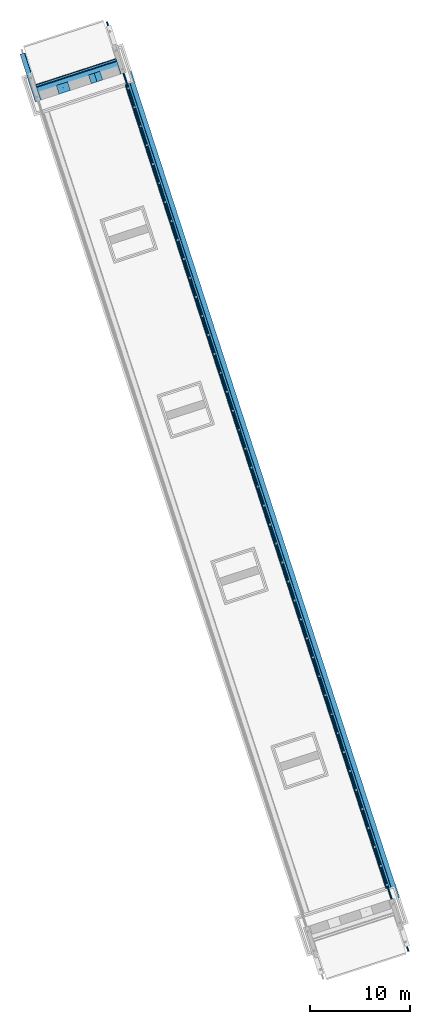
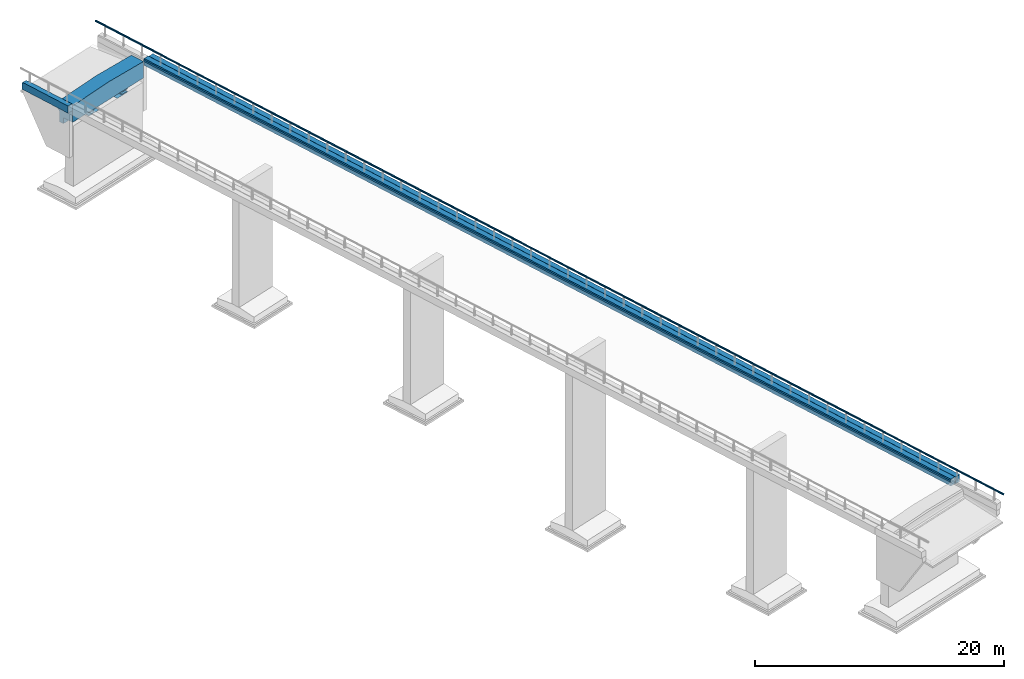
# Not in any storey, part 7 of 10: 4 beams, 2 bearings, 1 member, 1 element without a shape of its own.
"""IFC4X3_ADD2 model written with IfcOpenShell, lengths in metres."""

from ifc_helpers import new_model, entity, si_unit, converted_unit, derived_unit, direction, frame, origin, origin_2d, place, context, subcontext, project, library, spatial, polygons, element, aggregate, save


model = new_model("IFC4X3_ADD2")

# Units and contexts
model_context = context("Model", 3, precision=1e-05, world=origin(), true_north=direction((-0.011993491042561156, 0.9999280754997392)))
plan_context = context("Plan", 2, precision=1e-05, world=origin_2d())
body_context = subcontext(model_context, "Body", "Model", "MODEL_VIEW")
ifc_project = project(units=[si_unit("LENGTHUNIT", "METRE"), si_unit("AREAUNIT", "SQUARE_METRE"), si_unit("VOLUMEUNIT", "CUBIC_METRE"), si_unit("MASSUNIT", "GRAM", prefix="KILO"), converted_unit("TIMEUNIT", "year", entity("IfcTimeMeasure", 31557600.0), si_unit("TIMEUNIT", "SECOND"), dimensions=[0, 0, 1, 0, 0, 0, 0]), si_unit("PLANEANGLEUNIT", "RADIAN"), si_unit("THERMODYNAMICTEMPERATUREUNIT", "DEGREE_CELSIUS"), si_unit("FORCEUNIT", "NEWTON", prefix="KILO"), si_unit("PRESSUREUNIT", "PASCAL", prefix="MEGA"), si_unit("SOLIDANGLEUNIT", "STERADIAN"), derived_unit("MASSDENSITYUNIT", [(si_unit("MASSUNIT", "GRAM", prefix="KILO"), 1), (si_unit("VOLUMEUNIT", "CUBIC_METRE"), -1)]), derived_unit("MODULUSOFELASTICITYUNIT", [(si_unit("PRESSUREUNIT", "PASCAL", prefix="MEGA"), 1)]), derived_unit("THERMALEXPANSIONCOEFFICIENTUNIT", [(si_unit("THERMODYNAMICTEMPERATUREUNIT", "DEGREE_CELSIUS"), -1)])], contexts=[model_context, plan_context])
project_library = library(declared=ifc_project)

# Site, bridge, bridge parts
site_placement = place(None, origin())
site = spatial("IfcSite", under=ifc_project, at=site_placement, Name="Site BR-01", CompositionType="ELEMENT")
bridge_placement = place(site_placement, origin())
bridge = spatial("IfcBridge", under=site, at=bridge_placement, Name="BR-01", CompositionType="ELEMENT", PredefinedType="USERDEFINED")
bridge_part_1_placement = place(bridge_placement, origin())
bridge_part_1 = spatial("IfcBridgePart", under=bridge, at=bridge_part_1_placement, Name="Superstructure", CompositionType="ELEMENT", PredefinedType="SUPERSTRUCTURE", UsageType="LONGITUDINAL")
bridge_part_2_placement = place(bridge_part_1_placement, frame((0.0, 0.0, 62.729)))
bridge_part_2 = spatial("IfcBridgePart", under=bridge_part_1, at=bridge_part_2_placement, Name="Deck", CompositionType="ELEMENT", PredefinedType="DECK", UsageType="LONGITUDINAL")

# Railing, member
railing_placement = place(bridge_part_2_placement, frame((17.7389524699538, 118.69444238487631, 3.2577553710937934), z_axis=(0.0, 0.0, 1.0), x_axis=(0.3088039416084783, -0.951125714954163, 0.0)))
railing = element("IfcRailing", 1, at=railing_placement, inside=bridge_part_2, Name="Bridge railing left", PredefinedType="GUARDRAIL")
member_placement = place(bridge_part_2_placement, frame((32.56127931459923, 73.04081610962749, 2.7574807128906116), z_axis=(0.0, 0.0, 1.0), x_axis=(0.3088039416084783, -0.951125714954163, 0.0)))
member = element("IfcMember", 2, at=member_placement, Name="Railing top rail left", ObjectType="TOPRAIL", PredefinedType="USERDEFINED", context=body_context, shape_type="Tessellation", body=[
    polygons([(-48.9998, 0.02589, 0.43962), (-48.99981, -0.02564, 0.43962), (-48.99923, 0.02589, 0.56979), (-48.99963, 0.06521, 0.47894), (-48.99974, 0.04962, 0.45521), (-48.99983, 0.00013, 0.43471), (-48.99941, 0.06521, 0.53047), (-48.99952, 0.07013, 0.50471), (-48.9993, 0.04962, 0.55421), (-48.99923, -0.02564, 0.56979), (-48.99921, 0.00013, 0.57471), (-48.99963, -0.06496, 0.47894), (-48.99974, -0.04937, 0.45521), (-48.99952, -0.06987, 0.50471), (-48.99941, -0.06496, 0.53047), (-48.9993, -0.04937, 0.55421), (48.99921, -0.00013, 0.0), (48.99981, 0.02564, 0.13509), (48.99983, -0.00013, 0.14), (48.9993, 0.04937, 0.02051), (48.9994, 0.06496, 0.04424), (48.99963, 0.06496, 0.09577), (48.99923, 0.02564, 0.00492), (48.99952, 0.06987, 0.07), (48.99974, 0.04937, 0.1195), (48.99981, -0.02589, 0.13509), (48.99923, -0.02589, 0.00492), (48.99974, -0.04962, 0.1195), (48.9993, -0.04962, 0.02051), (48.9994, -0.06521, 0.04424), (48.99963, -0.06521, 0.09577), (48.99952, -0.07013, 0.07)], [[[1, 2, 3]], [[3, 4, 1]], [[4, 5, 1]], [[2, 1, 6]], [[4, 7, 8]], [[3, 7, 4]], [[3, 9, 7]], [[10, 11, 3]], [[10, 2, 12]], [[2, 13, 12]], [[14, 15, 12]], [[3, 2, 10]], [[15, 10, 12]], [[15, 16, 10]], [[17, 18, 19]], [[20, 21, 22]], [[23, 20, 18]], [[18, 17, 23]], [[21, 24, 22]], [[22, 25, 20]], [[18, 20, 25]], [[19, 26, 17]], [[27, 28, 29]], [[28, 30, 29]], [[31, 32, 30]], [[27, 17, 26]], [[28, 27, 26]], [[31, 30, 28]], [[31, 15, 14, 32]], [[27, 2, 6, 17]], [[23, 1, 5, 20]], [[21, 4, 8, 24]], [[20, 5, 4, 21]], [[17, 6, 1, 23]], [[30, 12, 13, 29]], [[29, 13, 2, 27]], [[32, 14, 12, 30]], [[18, 3, 11, 19]], [[26, 10, 16, 28]], [[28, 16, 15, 31]], [[19, 11, 10, 26]], [[22, 7, 9, 25]], [[25, 9, 3, 18]], [[24, 8, 7, 22]]], closed=True),
])
aggregate(railing, [member])

# Beams
beam_1_placement = place(bridge_part_2_placement, frame((14.562578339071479, 113.9054149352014, -0.2617606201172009), z_axis=(0.0, 0.0, 1.0), x_axis=(0.3088039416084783, -0.951125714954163, 0.0)))
element("IfcBeam", 3, at=beam_1_placement, inside=bridge_part_2, Name="End diaphragm A1", PredefinedType="DIAPHRAGM", context=body_context, shape_type="Tessellation", body=[
    polygons([(0.16499, -1.06251, 2.35802), (0.825, -1e-05, 2.38654), (-0.495, -1e-05, 2.39326), (0.495, -1.06251, 2.35634), (0.49499, -2.125, 2.32447), (0.82499, -4.25, 2.25903), (0.49499, -3.1875, 2.29259), (0.16499, -3.1875, 2.29427), (-0.165, -1.06251, 2.35971), (-0.16501, -2.125, 2.32784), (-0.49501, -4.24999, 2.26577), (-0.16501, -3.1875, 2.29596), (0.16499, -2.125, 2.32615), (-0.57501, -4.24999, 2.11618), (-0.575, -1e-05, 2.24368), (-0.57501, -4.24999, 1.56618), (-0.575, -0.00112, 1.5362), (0.82499, -4.25, 0.65903), (0.825, -0.00112, 0.62952), (0.16501, 3.18749, 2.24967), (0.82501, 4.24999, 2.2), (-0.49499, 4.25, 2.20586), (0.49501, 3.18749, 2.24815), (0.49501, 2.12499, 2.29484), (0.49501, 1.06249, 2.34153), (0.165, 1.06249, 2.34315), (-0.16499, 3.18749, 2.25119), (-0.16499, 2.12499, 2.29799), (-0.165, 1.06249, 2.34479), (0.16501, 2.12499, 2.29642), (-0.53499, 3.18749, 2.17789), (-0.57499, 4.24999, 2.05621), (-0.51499, 3.18749, 2.2153), (-0.51499, 2.12499, 2.26215), (-0.515, 1.06249, 2.30901), (-0.53499, 1.06249, 2.27161), (-0.55499, 3.1875, 2.14049), (-0.555, 2.12499, 2.18735), (-0.555, 1.06249, 2.23421), (-0.53499, 2.12499, 2.22475), (-0.57499, 4.24999, 1.50621), (-0.66499, 2.125, 1.5122), (-0.75499, 4.24999, 1.48821), (-0.61999, 2.125, 1.5167), (-0.62, -0.00112, 1.5317), (-0.62001, -2.125, 1.54668), (-0.66501, -2.12499, 1.54218), (-0.70999, 2.125, 1.5077), (-0.71, -0.00112, 1.5227), (-0.75501, -4.24999, 1.54818), (-0.71001, -2.125, 1.53769), (-0.665, -0.00112, 1.5272), (-0.78999, 2.125, 1.4782), (-0.82499, 4.24999, 1.43821), (-0.7725, 2.125, 1.4907), (-0.7725, -0.00112, 1.5057), (-0.7725, -2.125, 1.52069), (-0.79001, -2.125, 1.50819), (-0.80749, 2.125, 1.4657), (-0.8075, -0.00112, 1.4807), (-0.82501, -4.24999, 1.49818), (-0.80751, -2.12499, 1.49569), (-0.79, -0.00112, 1.4932), (-0.825, 2.125, 1.3622), (-0.82499, 4.24999, 1.25621), (-0.825, 2.125, 1.4077), (-0.825, -0.00112, 1.4227), (-0.825, -2.125, 1.43769), (-0.825, -2.125, 1.39219), (-0.825, 2.125, 1.3167), (-0.825, -0.00112, 1.3317), (-0.82501, -4.24999, 1.31618), (-0.825, -2.125, 1.34669), (-0.825, -0.00112, 1.3772), (-0.69999, 2.125, 1.1462), (-0.57499, 4.24999, 1.00621), (-0.76249, 2.125, 1.2087), (-0.7625, -0.00112, 1.2237), (-0.76251, -2.125, 1.23869), (-0.70001, -2.125, 1.17619), (-0.6375, 2.125, 1.0837), (-0.6375, -0.00112, 1.0987), (-0.57501, -4.24999, 1.06618), (-0.6375, -2.125, 1.11369), (-0.7, -0.00111, 1.1612), (-0.57499, 2.125, 0.51798), (-0.57499, 4.24999, 0.0), (-0.57499, 2.125, 0.76959), (-0.575, -0.00112, 0.78453), (-0.57501, -2.125, 0.79946), (-0.57501, -2.125, 0.54773), (-0.57499, 2.125, 0.26637), (-0.575, -0.00112, 0.28119), (-0.57501, -4.24999, 0.05903), (-0.57501, -2.125, 0.296), (-0.575, -0.00112, 0.53286), (-0.37499, 2.125, 0.01476), (-0.17499, 4.24999, 0.0), (-0.475, 2.125, 0.01476), (-0.475, -0.00112, 0.02953), (-0.475, -2.125, 0.04428), (-0.37501, -2.125, 0.04428), (-0.27499, 2.125, 0.01476), (-0.275, -0.00112, 0.02953), (-0.17501, -4.24999, 0.05903), (-0.27501, -2.125, 0.04428), (-0.375, -0.00112, 0.02953), (-0.175, 2.125, 0.31476), (-0.17499, 4.24999, 0.6), (-0.175, 2.125, 0.16476), (-0.175, -0.00112, 0.17952), (-0.175, -2.125, 0.19427), (-0.175, 2.125, 0.46476), (-0.175, -0.00112, 0.47953), (-0.17501, -4.24999, 0.65903), (-0.175, -2.125, 0.49427), (-0.175, -2.125, 0.34428), (-0.175, -0.00112, 0.32952), (0.325, 2.125, 0.61476), (0.82501, 4.24999, 0.6), (0.075, -0.00112, 0.62952), (0.07501, 2.12499, 0.61476), (0.07499, -2.125, 0.64428), (0.325, -2.125, 0.64428), (0.57501, 2.12499, 0.61476), (0.575, -0.00112, 0.62952), (0.57499, -2.125, 0.64428), (0.325, -0.00112, 0.62952)], [[[1, 2, 3]], [[2, 4, 5]], [[1, 4, 2]], [[5, 6, 2]], [[6, 7, 8]], [[7, 6, 5]], [[3, 9, 1]], [[10, 3, 11]], [[3, 10, 9]], [[11, 12, 10]], [[8, 11, 6]], [[11, 8, 12]], [[1, 13, 5, 4]], [[13, 8, 7, 5]], [[9, 10, 13, 1]], [[10, 12, 8, 13]], [[14, 11, 3, 15]], [[16, 14, 15, 17]], [[6, 18, 19, 2]], [[20, 21, 22]], [[21, 23, 24]], [[20, 23, 21]], [[24, 2, 21]], [[2, 25, 26]], [[25, 2, 24]], [[22, 27, 20]], [[28, 22, 3]], [[22, 28, 27]], [[3, 29, 28]], [[26, 3, 2]], [[3, 26, 29]], [[20, 30, 24, 23]], [[30, 26, 25, 24]], [[27, 28, 30, 20]], [[28, 29, 26, 30]], [[31, 22, 32]], [[22, 33, 34]], [[31, 33, 22]], [[34, 3, 22]], [[3, 35, 36]], [[35, 3, 34]], [[32, 37, 31]], [[38, 32, 15]], [[32, 38, 37]], [[15, 39, 38]], [[36, 15, 3]], [[15, 36, 39]], [[31, 40, 34, 33]], [[40, 36, 35, 34]], [[37, 38, 40, 31]], [[38, 39, 36, 40]], [[17, 15, 32, 41]], [[42, 41, 43]], [[41, 44, 45, 17]], [[42, 44, 41]], [[17, 46, 16]], [[16, 46, 47]], [[45, 46, 17]], [[43, 48, 42]], [[49, 43, 50]], [[43, 49, 48]], [[50, 51, 49]], [[47, 50, 16]], [[50, 47, 51]], [[42, 52, 45, 44]], [[52, 47, 46, 45]], [[48, 49, 52, 42]], [[49, 51, 47, 52]], [[53, 43, 54]], [[53, 55, 43]], [[43, 55, 56, 50]], [[50, 57, 58]], [[57, 50, 56]], [[54, 59, 53]], [[60, 54, 61]], [[54, 60, 59]], [[61, 62, 60]], [[58, 61, 50]], [[61, 58, 62]], [[53, 63, 56, 55]], [[63, 58, 57, 56]], [[59, 60, 63, 53]], [[60, 62, 58, 63]], [[64, 54, 65]], [[64, 66, 54]], [[54, 66, 67, 61]], [[61, 68, 69]], [[68, 61, 67]], [[65, 70, 64]], [[71, 65, 72]], [[65, 71, 70]], [[72, 73, 71]], [[69, 72, 61]], [[72, 69, 73]], [[64, 74, 67, 66]], [[74, 69, 68, 67]], [[70, 71, 74, 64]], [[71, 73, 69, 74]], [[75, 65, 76]], [[75, 77, 65]], [[65, 77, 78, 72]], [[72, 79, 80]], [[79, 72, 78]], [[76, 81, 75]], [[82, 76, 83]], [[76, 82, 81]], [[83, 84, 82]], [[80, 83, 72]], [[83, 80, 84]], [[75, 85, 78, 77]], [[85, 80, 79, 78]], [[81, 82, 85, 75]], [[82, 84, 80, 85]], [[86, 76, 87]], [[86, 88, 76]], [[76, 88, 89, 83]], [[83, 90, 91]], [[90, 83, 89]], [[87, 92, 86]], [[93, 87, 94]], [[87, 93, 92]], [[94, 95, 93]], [[91, 94, 83]], [[94, 91, 95]], [[86, 96, 89, 88]], [[96, 91, 90, 89]], [[92, 93, 96, 86]], [[93, 95, 91, 96]], [[97, 87, 98]], [[97, 99, 87]], [[87, 99, 100, 94]], [[94, 101, 102]], [[101, 94, 100]], [[98, 103, 97]], [[104, 98, 105]], [[98, 104, 103]], [[105, 106, 104]], [[102, 105, 94]], [[105, 102, 106]], [[97, 107, 100, 99]], [[107, 102, 101, 100]], [[103, 104, 107, 97]], [[104, 106, 102, 107]], [[108, 98, 109]], [[108, 110, 98]], [[98, 110, 111, 105]], [[112, 105, 111]], [[109, 113, 108]], [[114, 109, 115]], [[109, 114, 113]], [[115, 116, 114]], [[105, 112, 117, 115]], [[115, 117, 116]], [[108, 118, 111, 110]], [[118, 117, 112, 111]], [[113, 114, 118, 108]], [[114, 116, 117, 118]], [[119, 109, 120]], [[121, 115, 109]], [[109, 122, 121]], [[122, 109, 119]], [[123, 115, 121]], [[115, 124, 18]], [[124, 115, 123]], [[120, 125, 119]], [[19, 126, 125, 120]], [[19, 127, 126]], [[127, 18, 124]], [[18, 127, 19]], [[119, 128, 121, 122]], [[128, 124, 123, 121]], [[125, 126, 128, 119]], [[126, 127, 124, 128]], [[76, 41, 109]], [[87, 76, 109]], [[76, 65, 43]], [[43, 65, 54]], [[41, 76, 43]], [[22, 41, 32]], [[98, 87, 109]], [[120, 109, 21]], [[109, 41, 22]], [[21, 109, 22]], [[16, 83, 115]], [[14, 16, 11]], [[16, 50, 72]], [[72, 50, 61]], [[83, 16, 72]], [[94, 115, 83]], [[16, 115, 6]], [[6, 115, 18]], [[6, 11, 16]], [[105, 115, 94]], [[2, 19, 120, 21]]], closed=True),
])
beam_2_placement = place(bridge_part_2_placement, frame((33.05923286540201, 73.18014288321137, 1.1218796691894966), z_axis=(0.0, 0.0, 1.0), x_axis=(0.3088039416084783, -0.951125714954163, 0.0)))
element("IfcBeam", 4, at=beam_2_placement, inside=bridge_part_2, Name="Edge beam left outer", PredefinedType="EDGEBEAM", context=body_context, shape_type="Tessellation", body=[
    polygons([(-43.55, -0.21989, 0.81451), (0.0, -0.22, 0.52133), (43.55, -0.22011, 0.42815), (-21.44402, -0.21995, 0.61645), (-21.44402, -0.21995, 0.51645), (-43.55, -0.21989, 0.41451), (-21.44402, -0.21995, 0.41645), (0.0, -0.22, 0.32132), (22.10598, -0.22006, 0.42327), (22.10598, -0.22006, 0.32327), (43.55, -0.22011, 0.02814), (22.10598, -0.22006, 0.22327), (0.0, -0.22, 0.42133), (0.0, -0.0975, 0.21429), (-21.44402, -0.09744, 0.30941), (-21.44402, 0.02506, 0.30237), (-43.55, 0.27011, 0.38636), (-21.44402, 0.14755, 0.29534), (0.0, 0.1475, 0.20021), (22.10598, -0.09756, 0.11623), (22.10598, 0.02494, 0.1092), (43.55, 0.26989, 0.0), (22.10598, 0.14744, 0.10216), (0.0, 0.025, 0.20726), (0.0, 0.27, 0.36818), (-21.44402, 0.27005, 0.4633), (-21.44402, 0.27005, 0.6383), (-43.55, 0.27011, 1.08636), (-21.44402, 0.27005, 0.8133), (0.0, 0.27, 0.71818), (22.10598, 0.26994, 0.27012), (22.10598, 0.26994, 0.44512), (43.55, 0.26989, 0.7), (22.10598, 0.26994, 0.62012), (0.0, 0.27, 0.54318), (0.0, 0.1525, 0.88818), (-21.44402, 0.15255, 0.9833), (-21.44402, 0.03506, 0.9783), (-43.55, -0.19989, 1.06636), (-21.44402, -0.08244, 0.9733), (0.0, -0.0825, 0.87818), (22.10598, 0.15244, 0.79012), (22.10598, 0.03494, 0.78512), (43.55, -0.20011, 0.68), (22.10598, -0.08256, 0.78012), (0.0, 0.035, 0.88318), (0.0, -0.2175, 0.85568), (-21.44402, -0.21744, 0.9508), (-21.44402, -0.23495, 0.9333), (-43.55, -0.26989, 0.99636), (-21.44402, -0.25244, 0.9158), (0.0, -0.2525, 0.82068), (22.10598, -0.21756, 0.75762), (22.10598, -0.23506, 0.74012), (43.55, -0.27011, 0.61), (22.10598, -0.25256, 0.72262), (0.0, -0.235, 0.83818), (0.0, -0.27, 0.75818), (-21.44402, -0.26994, 0.8533), (-21.44402, -0.26994, 0.8083), (-43.55, -0.26989, 0.81636), (-21.44402, -0.26994, 0.7633), (0.0, -0.27, 0.66818), (22.10598, -0.27006, 0.66012), (22.10598, -0.27006, 0.61512), (43.55, -0.27011, 0.43), (22.10598, -0.27006, 0.57012), (0.0, -0.27, 0.71318), (0.0, -0.2575, 0.62271), (-21.44402, -0.25744, 0.71784), (-21.44402, -0.24495, 0.71737), (-21.44402, -0.23245, 0.71692), (0.0, -0.2325, 0.62179), (22.10598, -0.25756, 0.52465), (22.10598, -0.24506, 0.5242), (22.10598, -0.23256, 0.52373), (0.0, -0.245, 0.62225)], [[[1, 2, 3]], [[4, 2, 1]], [[5, 4, 1, 6]], [[7, 6, 8]], [[6, 7, 5]], [[9, 3, 2]], [[3, 10, 11]], [[10, 3, 9]], [[12, 11, 10]], [[11, 8, 6]], [[8, 11, 12]], [[5, 13, 2, 4]], [[7, 8, 13, 5]], [[13, 10, 9, 2]], [[8, 12, 10, 13]], [[6, 14, 11]], [[15, 6, 16]], [[15, 14, 6]], [[17, 16, 6]], [[18, 17, 19]], [[17, 18, 16]], [[20, 11, 14]], [[11, 21, 22]], [[21, 11, 20]], [[23, 22, 21]], [[22, 19, 17]], [[19, 22, 23]], [[16, 24, 14, 15]], [[18, 19, 24, 16]], [[24, 21, 20, 14]], [[19, 23, 21, 24]], [[17, 25, 22]], [[26, 25, 17]], [[27, 26, 17, 28]], [[29, 28, 30]], [[28, 29, 27]], [[31, 22, 25]], [[22, 32, 33]], [[32, 22, 31]], [[34, 33, 32]], [[33, 30, 28]], [[30, 33, 34]], [[27, 35, 25, 26]], [[29, 30, 35, 27]], [[35, 32, 31, 25]], [[30, 34, 32, 35]], [[28, 36, 33]], [[37, 28, 38]], [[37, 36, 28]], [[39, 38, 28]], [[40, 39, 41]], [[39, 40, 38]], [[42, 33, 36]], [[33, 43, 44]], [[43, 33, 42]], [[45, 44, 43]], [[44, 41, 39]], [[41, 44, 45]], [[38, 46, 36, 37]], [[40, 41, 46, 38]], [[46, 43, 42, 36]], [[41, 45, 43, 46]], [[39, 47, 44]], [[48, 39, 49]], [[48, 47, 39]], [[50, 49, 39]], [[51, 50, 52]], [[50, 51, 49]], [[53, 44, 47]], [[44, 54, 55]], [[54, 44, 53]], [[56, 55, 54]], [[55, 52, 50]], [[52, 55, 56]], [[49, 57, 47, 48]], [[51, 52, 57, 49]], [[57, 54, 53, 47]], [[52, 56, 54, 57]], [[50, 58, 55]], [[59, 50, 60]], [[59, 58, 50]], [[61, 60, 50]], [[62, 61, 63]], [[61, 62, 60]], [[64, 55, 58]], [[55, 65, 66]], [[65, 55, 64]], [[67, 66, 65]], [[66, 63, 61]], [[63, 66, 67]], [[60, 68, 58, 59]], [[62, 63, 68, 60]], [[68, 65, 64, 58]], [[63, 67, 65, 68]], [[3, 44, 55]], [[33, 44, 3]], [[22, 3, 11]], [[3, 22, 33]], [[55, 66, 3]], [[39, 1, 50]], [[17, 1, 28]], [[1, 17, 6]], [[39, 28, 1]], [[1, 61, 50]], [[61, 69, 66]], [[70, 61, 71]], [[70, 69, 61]], [[1, 71, 61]], [[72, 1, 73]], [[1, 72, 71]], [[74, 66, 69]], [[66, 75, 3]], [[75, 66, 74]], [[76, 3, 75]], [[3, 73, 1]], [[73, 3, 76]], [[71, 77, 69, 70]], [[72, 73, 77, 71]], [[77, 75, 74, 69]], [[73, 76, 75, 77]]], closed=True),
])

# Bridge parts
bridge_part_3_placement = place(bridge_placement, origin())
bridge_part_3 = spatial("IfcBridgePart", under=bridge, at=bridge_part_3_placement, Name="Substructure", CompositionType="ELEMENT", PredefinedType="SUBSTRUCTURE", UsageType="VERTICAL")
bridge_part_4_placement = place(bridge_part_3_placement, frame((0.0, 0.0, 55.75)))
bridge_part_4 = spatial("IfcBridgePart", under=bridge_part_3, at=bridge_part_4_placement, Name="A1", CompositionType="ELEMENT", PredefinedType="ABUTMENT", UsageType="VERTICAL")

# Beams
beam_3_placement = place(bridge_part_4_placement, frame((9.746259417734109, 114.10273991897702, 8.546272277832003), z_axis=(0.0, 0.0, 1.0), x_axis=(0.3088039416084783, -0.951125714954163, 0.0)))
element("IfcBeam", 5, at=beam_3_placement, inside=bridge_part_4, Name="Wing wall edge beam A1 right", PredefinedType="EDGEBEAM", context=body_context, shape_type="Tessellation", body=[
    polygons([(-2.19997, -0.26999, 0.02398), (-2.49997, -0.26999, 0.02551), (-2.49997, -0.12999, 0.03409), (-2.19997, -0.13, 0.03255), (-2.19997, -0.26999, 0.72398), (-2.49997, -0.26999, 0.64552), (-2.19997, 0.2, 0.70398), (-2.49996, 0.20001, 0.62551), (-2.19997, 0.27001, 0.63398), (-2.49997, 0.27001, 0.55551), (-2.34997, 0.27001, 0.47781), (-2.42497, 0.27001, 0.33442), (-2.49997, 0.27001, 0.45551), (-2.42497, 0.27001, 0.47489), (-2.42497, 0.27001, 0.18406), (-2.49997, 0.27001, 0.03409), (-2.34997, 0.27001, 0.18368), (-2.27497, 0.27001, 0.48071), (-2.27497, 0.27001, 0.33365), (-2.19997, 0.27001, 0.45398), (-2.19997, 0.27001, 0.03255), (-2.27497, 0.27001, 0.1833), (-2.34997, 0.27001, 0.33403), (0.1725, -0.165, 0.0183), (2.49997, -0.13001, 0.00858), (-1.01498, -0.165, 0.02437), (-1.01499, -0.2, 0.02222), (-1.01499, -0.235, 0.02008), (1.32498, -0.165, 0.01243), (1.32498, -0.2, 0.01028), (2.49997, -0.27001, 0.0), (1.32498, -0.23501, 0.00814), (0.1725, -0.235, 0.01402), (0.17249, -0.2, 0.01616), (0.1725, -0.27, 0.18687), (-1.01498, -0.27, 0.19294), (-1.01498, -0.27, 0.36794), (-1.01498, -0.27, 0.54294), (1.32498, -0.27, 0.181), (1.32498, -0.27, 0.356), (2.49997, -0.27001, 0.7), (1.32498, -0.27, 0.531), (0.1725, -0.27, 0.53688), (0.1725, -0.27, 0.36188), (0.1725, -0.1525, 0.70688), (-1.01499, -0.1525, 0.71294), (-1.01499, -0.035, 0.70794), (-1.01499, 0.0825, 0.70293), (1.32499, -0.15251, 0.701), (1.32498, -0.03501, 0.696), (2.49997, 0.19999, 0.68), (1.32498, 0.0825, 0.69099), (0.1725, 0.0825, 0.69688), (0.1725, -0.035, 0.70187), (0.1725, 0.2175, 0.67438), (-1.01499, 0.2175, 0.68044), (-1.01498, 0.235, 0.66293), (-1.01499, 0.2525, 0.64544), (1.32499, 0.2175, 0.6685), (1.32498, 0.235, 0.65099), (2.49996, 0.26999, 0.61), (1.32498, 0.2525, 0.6335), (0.1725, 0.2525, 0.63937), (0.1725, 0.235, 0.65688), (0.1725, 0.27, 0.47152), (-1.01499, 0.27, 0.32722), (-1.01499, 0.27, 0.47758), (-1.01499, 0.27, 0.17686), (1.32499, 0.27, 0.46564), (1.32499, 0.27, 0.31528), (2.49996, 0.26999, 0.43), (2.49996, 0.26999, 0.00858), (1.32499, 0.27, 0.16492), (0.1725, 0.27, 0.17081), (0.1725, 0.27, 0.32116), (0.17249, 0.17, 0.02045), (-1.01499, 0.17, 0.0265), (-1.01499, 0.07, 0.0265), (-1.01498, -0.03, 0.0265), (1.32498, 0.17, 0.01456), (1.32498, 0.07, 0.01456), (1.32498, -0.03, 0.01456), (0.1725, -0.03, 0.02045), (0.1725, 0.07, 0.02045)], [[[1, 2, 3, 4]], [[5, 6, 2, 1]], [[7, 8, 6, 5]], [[9, 10, 8, 7]], [[11, 10, 9]], [[12, 13, 14]], [[13, 10, 14]], [[11, 14, 10]], [[13, 15, 16]], [[16, 15, 17]], [[12, 15, 13]], [[11, 9, 18]], [[19, 18, 20]], [[9, 20, 18]], [[21, 22, 19, 20]], [[17, 21, 16]], [[21, 17, 22]], [[11, 23, 12, 14]], [[23, 17, 15, 12]], [[18, 19, 23, 11]], [[19, 22, 17, 23]], [[24, 4, 25]], [[4, 26, 27]], [[24, 26, 4]], [[27, 1, 4]], [[28, 1, 27]], [[25, 29, 24]], [[30, 25, 31]], [[25, 30, 29]], [[31, 32, 30]], [[1, 28, 33, 31]], [[31, 33, 32]], [[24, 34, 27, 26]], [[34, 33, 28, 27]], [[29, 30, 34, 24]], [[30, 32, 33, 34]], [[35, 1, 31]], [[35, 36, 1]], [[1, 36, 37, 5]], [[38, 5, 37]], [[31, 39, 35]], [[40, 31, 41]], [[31, 40, 39]], [[41, 42, 40]], [[5, 38, 43, 41]], [[41, 43, 42]], [[35, 44, 37, 36]], [[44, 43, 38, 37]], [[39, 40, 44, 35]], [[40, 42, 43, 44]], [[45, 5, 41]], [[5, 46, 47]], [[45, 46, 5]], [[47, 7, 5]], [[48, 7, 47]], [[41, 49, 45]], [[50, 41, 51]], [[41, 50, 49]], [[51, 52, 50]], [[7, 48, 53, 51]], [[51, 53, 52]], [[45, 54, 47, 46]], [[54, 53, 48, 47]], [[49, 50, 54, 45]], [[50, 52, 53, 54]], [[55, 7, 51]], [[7, 56, 57]], [[55, 56, 7]], [[57, 9, 7]], [[58, 9, 57]], [[51, 59, 55]], [[60, 51, 61]], [[51, 60, 59]], [[61, 62, 60]], [[9, 58, 63, 61]], [[61, 63, 62]], [[55, 64, 57, 56]], [[64, 63, 58, 57]], [[59, 60, 64, 55]], [[60, 62, 63, 64]], [[65, 9, 61]], [[66, 20, 67]], [[20, 9, 67]], [[65, 67, 9]], [[20, 68, 21]], [[66, 68, 20]], [[65, 61, 69]], [[70, 69, 71]], [[61, 71, 69]], [[72, 73, 70, 71]], [[21, 68, 74, 72]], [[72, 74, 73]], [[65, 75, 66, 67]], [[75, 74, 68, 66]], [[69, 70, 75, 65]], [[70, 73, 74, 75]], [[4, 3, 16, 21]], [[41, 71, 51]], [[25, 72, 71]], [[61, 51, 71]], [[41, 25, 71]], [[25, 41, 31]], [[3, 13, 16]], [[8, 10, 13]], [[8, 13, 3]], [[3, 6, 8]], [[3, 2, 6]], [[76, 21, 72]], [[21, 77, 78]], [[76, 77, 21]], [[78, 4, 21]], [[79, 4, 78]], [[72, 80, 76]], [[81, 72, 25]], [[72, 81, 80]], [[25, 82, 81]], [[4, 79, 83, 25]], [[25, 83, 82]], [[76, 84, 78, 77]], [[84, 83, 79, 78]], [[80, 81, 84, 76]], [[81, 82, 83, 84]]], closed=True),
])
beam_4_placement = place(bridge_part_2_placement, frame((32.56472814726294, 73.0949570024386, 1.1218796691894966), z_axis=(0.0, 0.0, 1.0), x_axis=(0.3088039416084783, -0.951125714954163, 0.0)))
element("IfcBeam", 6, at=beam_4_placement, inside=bridge_part_2, Name="Edge beam left inner", PredefinedType="EDGEBEAM", context=body_context, shape_type="Tessellation", body=[
    polygons([(-43.55, -0.21989, 0.81451), (0.0, -0.22, 0.52133), (43.55, -0.22011, 0.42815), (-21.44402, -0.21994, 0.61645), (-21.44402, -0.21994, 0.51645), (-43.55, -0.21989, 0.41451), (-21.44402, -0.21994, 0.41645), (22.10598, -0.22006, 0.42327), (22.10598, -0.22006, 0.32327), (43.55, -0.22011, 0.02814), (22.10598, -0.22006, 0.22327), (0.0, -0.22, 0.32132), (0.0, -0.22, 0.42133), (0.0, -0.0975, 0.21429), (-21.44402, -0.09744, 0.30941), (-21.44402, 0.02506, 0.30237), (-43.55, 0.27011, 0.38636), (-21.44402, 0.14756, 0.29534), (22.10598, -0.09756, 0.11623), (22.10598, 0.02494, 0.1092), (43.55, 0.26989, 0.0), (22.10598, 0.14744, 0.10216), (0.0, 0.1475, 0.20021), (0.0, 0.025, 0.20726), (0.0, 0.27, 0.36818), (-21.44402, 0.27006, 0.4633), (-21.44402, 0.27006, 0.6383), (-43.55, 0.27011, 1.08636), (-21.44402, 0.27006, 0.8133), (22.10598, 0.26994, 0.27012), (22.10598, 0.26994, 0.44512), (43.55, 0.26989, 0.7), (22.10598, 0.26994, 0.62012), (0.0, 0.27, 0.71818), (0.0, 0.27, 0.54318), (0.0, 0.1525, 0.88818), (-21.44402, 0.15256, 0.9833), (-21.44402, 0.03506, 0.9783), (-43.55, -0.19989, 1.06636), (-21.44402, -0.08244, 0.9733), (22.10598, 0.15244, 0.79012), (22.10598, 0.03494, 0.78512), (43.55, -0.20011, 0.68), (22.10598, -0.08256, 0.78012), (0.0, -0.0825, 0.87818), (0.0, 0.035, 0.88318), (0.0, -0.2175, 0.85568), (-21.44402, -0.21744, 0.9508), (-21.44402, -0.23494, 0.9333), (-43.55, -0.26989, 0.99636), (-21.44402, -0.25245, 0.9158), (22.10598, -0.21756, 0.75762), (22.10598, -0.23506, 0.74012), (43.55, -0.27011, 0.61), (22.10598, -0.25256, 0.72262), (0.0, -0.2525, 0.82068), (0.0, -0.235, 0.83818), (0.0, -0.27, 0.75818), (-21.44402, -0.26994, 0.8533), (-21.44402, -0.26994, 0.8083), (-43.55, -0.26989, 0.81636), (-21.44402, -0.26994, 0.7633), (22.10598, -0.27006, 0.66012), (22.10598, -0.27006, 0.61512), (43.55, -0.27011, 0.43), (22.10598, -0.27006, 0.57012), (0.0, -0.27, 0.66818), (0.0, -0.27, 0.71318), (0.0, -0.2575, 0.62271), (-21.44402, -0.25744, 0.71784), (-21.44402, -0.24494, 0.71737), (-21.44402, -0.23244, 0.71692), (22.10598, -0.25756, 0.52465), (22.10598, -0.24506, 0.5242), (22.10598, -0.23256, 0.52373), (0.0, -0.2325, 0.62179), (0.0, -0.245, 0.62225)], [[[1, 2, 3]], [[4, 1, 5]], [[4, 2, 1]], [[6, 5, 1]], [[6, 7, 5]], [[8, 3, 2]], [[3, 9, 10]], [[9, 3, 8]], [[11, 10, 9]], [[12, 7, 6, 10]], [[12, 10, 11]], [[5, 13, 2, 4]], [[7, 12, 13, 5]], [[13, 9, 8, 2]], [[12, 11, 9, 13]], [[6, 14, 10]], [[15, 6, 16]], [[15, 14, 6]], [[17, 16, 6]], [[17, 18, 16]], [[19, 10, 14]], [[10, 20, 21]], [[20, 10, 19]], [[22, 21, 20]], [[23, 18, 17, 21]], [[23, 21, 22]], [[16, 24, 14, 15]], [[18, 23, 24, 16]], [[24, 20, 19, 14]], [[23, 22, 20, 24]], [[17, 25, 21]], [[26, 17, 27]], [[26, 25, 17]], [[28, 27, 17]], [[28, 29, 27]], [[30, 21, 25]], [[21, 31, 32]], [[31, 21, 30]], [[33, 32, 31]], [[34, 29, 28, 32]], [[34, 32, 33]], [[27, 35, 25, 26]], [[29, 34, 35, 27]], [[35, 31, 30, 25]], [[34, 33, 31, 35]], [[28, 36, 32]], [[37, 28, 38]], [[37, 36, 28]], [[39, 38, 28]], [[39, 40, 38]], [[41, 32, 36]], [[32, 42, 43]], [[42, 32, 41]], [[44, 43, 42]], [[45, 40, 39, 43]], [[45, 43, 44]], [[38, 46, 36, 37]], [[40, 45, 46, 38]], [[46, 42, 41, 36]], [[45, 44, 42, 46]], [[39, 47, 43]], [[48, 39, 49]], [[48, 47, 39]], [[50, 49, 39]], [[50, 51, 49]], [[52, 43, 47]], [[43, 53, 54]], [[53, 43, 52]], [[55, 54, 53]], [[56, 51, 50, 54]], [[56, 54, 55]], [[49, 57, 47, 48]], [[51, 56, 57, 49]], [[57, 53, 52, 47]], [[56, 55, 53, 57]], [[50, 58, 54]], [[59, 50, 60]], [[59, 58, 50]], [[61, 60, 50]], [[61, 62, 60]], [[63, 54, 58]], [[54, 64, 65]], [[64, 54, 63]], [[66, 65, 64]], [[67, 62, 61, 65]], [[67, 65, 66]], [[60, 68, 58, 59]], [[62, 67, 68, 60]], [[68, 64, 63, 58]], [[67, 66, 64, 68]], [[3, 43, 54]], [[32, 43, 3]], [[32, 3, 10, 21]], [[54, 65, 3]], [[1, 39, 28]], [[17, 6, 1, 28]], [[1, 50, 39]], [[50, 1, 61]], [[61, 69, 65]], [[70, 61, 71]], [[70, 69, 61]], [[1, 71, 61]], [[1, 72, 71]], [[73, 65, 69]], [[65, 74, 3]], [[74, 65, 73]], [[75, 3, 74]], [[76, 72, 1, 3]], [[76, 3, 75]], [[71, 77, 69, 70]], [[72, 76, 77, 71]], [[77, 74, 73, 69]], [[76, 75, 74, 77]]], closed=True),
])

# Bearings
bearing_1_placement = place(bridge_part_4_placement, frame((16.29480973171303, 114.0735490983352, 6.9317817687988), z_axis=(0.0, 0.0, 1.0), x_axis=(0.3088039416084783, -0.951125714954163, 0.0)))
element("IfcBearing", 7, at=bearing_1_placement, inside=bridge_part_4, Name="Bridge bearing A1 left", PredefinedType="ELASTOMERIC", context=body_context, shape_type="Tessellation", body=[
    polygons([(-0.45, -0.6005, 0.39717), (-0.45, -0.6005, 0.42162), (-0.45, -0.0005, 0.42578), (-0.45, -0.0005, 0.39717), (0.45, -0.6005, 0.39717), (0.45, -0.6005, 0.42162), (0.45, -0.0005, 0.39717), (0.45, -0.0005, 0.42578)], [[[1, 2, 3, 4]], [[5, 6, 2, 1]], [[7, 8, 6, 5]], [[7, 5, 1, 4]], [[3, 2, 6, 8]], [[4, 3, 8, 7]]], closed=True),
    polygons([(-0.45, -0.6005, 0.00834), (-0.45, -0.6005, 0.01334), (-0.45, -0.0005, 0.01334), (-0.45, -0.0005, 0.00417), (0.45, -0.6005, 0.00834), (0.45, -0.6005, 0.01334), (0.45, -0.0005, 0.00417), (0.45, -0.0005, 0.01334)], [[[1, 2, 3, 4]], [[5, 6, 2, 1]], [[7, 8, 6, 5]], [[7, 5, 1, 4]], [[3, 2, 6, 8]], [[4, 3, 8, 7]]], closed=True),
    polygons([(-0.45, 0.0005, 0.30209), (-0.45, 0.0005, 0.40417), (-0.45, 0.6005, 0.4), (-0.45, 0.6005, 0.30209), (0.45, 0.0005, 0.30209), (0.45, 0.0005, 0.40417), (0.45, 0.6005, 0.30209), (0.45, 0.6005, 0.4)], [[[1, 2, 3, 4]], [[5, 6, 2, 1]], [[7, 8, 6, 5]], [[7, 5, 1, 4]], [[3, 2, 6, 8]], [[4, 3, 8, 7]]], closed=True),
    polygons([(-0.45, 0.0005, 0.00417), (-0.45, 0.0005, 0.10209), (-0.45, 0.6005, 0.10209), (-0.45, 0.6005, 0.0), (0.45, 0.0005, 0.00417), (0.45, 0.0005, 0.10209), (0.45, 0.6005, 0.0), (0.45, 0.6005, 0.10209)], [[[1, 2, 3, 4]], [[5, 6, 2, 1]], [[7, 8, 6, 5]], [[7, 5, 1, 4]], [[3, 2, 6, 8]], [[4, 3, 8, 7]]], closed=True),
])
bearing_2_placement = place(bridge_part_4_placement, frame((13.061931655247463, 113.02393033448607, 6.955394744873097), z_axis=(0.0, 0.0, 1.0), x_axis=(0.3088039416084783, -0.951125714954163, 0.0)))
element("IfcBearing", 8, at=bearing_2_placement, inside=bridge_part_4, Name="Bridge bearing A1 right", PredefinedType="ELASTOMERIC", context=body_context, shape_type="Tessellation", body=[
    polygons([(-0.45, 0.6005, 0.393), (-0.45, 0.6005, 0.398), (-0.45, 0.0005, 0.40217), (-0.45, 0.0005, 0.393), (0.45, 0.6005, 0.393), (0.45, 0.6005, 0.398), (0.45, 0.0005, 0.393), (0.45, 0.0005, 0.40217)], [[[1, 2, 3, 4]], [[5, 6, 2, 1]], [[7, 8, 6, 5]], [[1, 4, 7, 5]], [[6, 8, 3, 2]], [[4, 3, 8, 7]]], closed=True),
    polygons([(-0.45, 0.6005, 0.0), (-0.45, 0.6005, 0.00917), (-0.45, 0.0005, 0.00917), (-0.45, 0.0005, 0.00417), (0.45, 0.6005, 0.0), (0.45, 0.6005, 0.00917), (0.45, 0.0005, 0.00417), (0.45, 0.0005, 0.00917)], [[[1, 2, 3, 4]], [[5, 6, 2, 1]], [[7, 8, 6, 5]], [[1, 4, 7, 5]], [[6, 8, 3, 2]], [[4, 3, 8, 7]]], closed=True),
    polygons([(-0.45, -0.6005, 0.40834), (-0.45, -0.0005, 0.40417), (-0.45, -0.0005, 0.30625), (-0.45, -0.6005, 0.30625), (0.45, -0.0005, 0.40417), (0.45, -0.0005, 0.30625), (0.44999, -0.6005, 0.40834), (0.44999, -0.6005, 0.30625)], [[[1, 2, 3, 4]], [[2, 5, 6, 3]], [[5, 7, 8, 6]], [[3, 6, 8, 4]], [[5, 2, 1, 7]], [[7, 1, 4, 8]]], closed=True),
    polygons([(-0.45, -0.6005, 0.10625), (-0.45, -0.0005, 0.10625), (-0.45, -0.0005, 0.00417), (-0.45, -0.6005, 0.00834), (0.45, -0.0005, 0.10625), (0.45, -0.0005, 0.00417), (0.44999, -0.6005, 0.10625), (0.44999, -0.6005, 0.00834)], [[[1, 2, 3, 4]], [[2, 5, 6, 3]], [[5, 7, 8, 6]], [[3, 6, 8, 4]], [[5, 2, 1, 7]], [[7, 1, 4, 8]]], closed=True),
])

save(model, "model.ifc")
